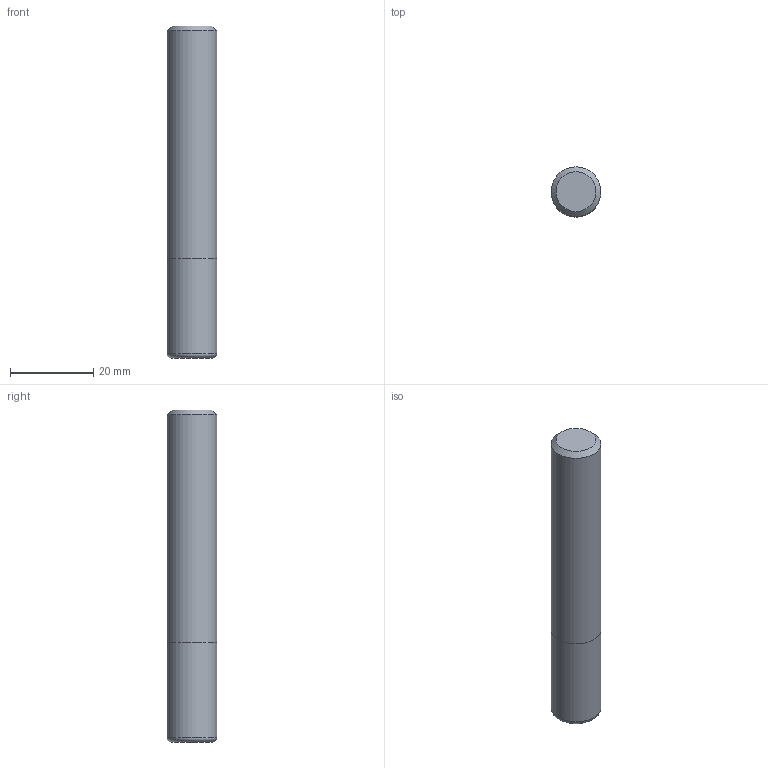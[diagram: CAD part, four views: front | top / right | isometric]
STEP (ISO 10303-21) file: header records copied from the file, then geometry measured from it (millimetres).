
FILE_DESCRIPTION((''),'2;1');
FILE_NAME('C:\Users\nsx150\AppData\Local\Temp\Mastercam 2021\Y59DX2IYLB\TEMP.step','2021-04-08T17:16:52',(''),(''),'STEP Write','Mastercam 2021 ... CNC Software, Inc.','');
FILE_SCHEMA(('AUTOMOTIVE_DESIGN'));
Length unit declared in the file: millimetre
Products named in the file (1): None
Bounding box: 12 x 12 x 80 mm (x, y, z)
Volume: 9014.7 mm3; surface area: 3423.3 mm2
Topology: 2 solids, 2 shells, 8 faces, 10 edges, 6 vertices
Faces by surface type: plane 4, cylinder 2, torus 1, cone 1
Full cylindrical faces by diameter (mm): 12 x2
Entity records: 190 total; most frequent: DIRECTION 32, CARTESIAN_POINT 22, AXIS2_PLACEMENT_3D 16, ORIENTED_EDGE 12, EDGE_LOOP 12, STYLED_ITEM 11, ADVANCED_FACE 8, FACE_BOUND 7
